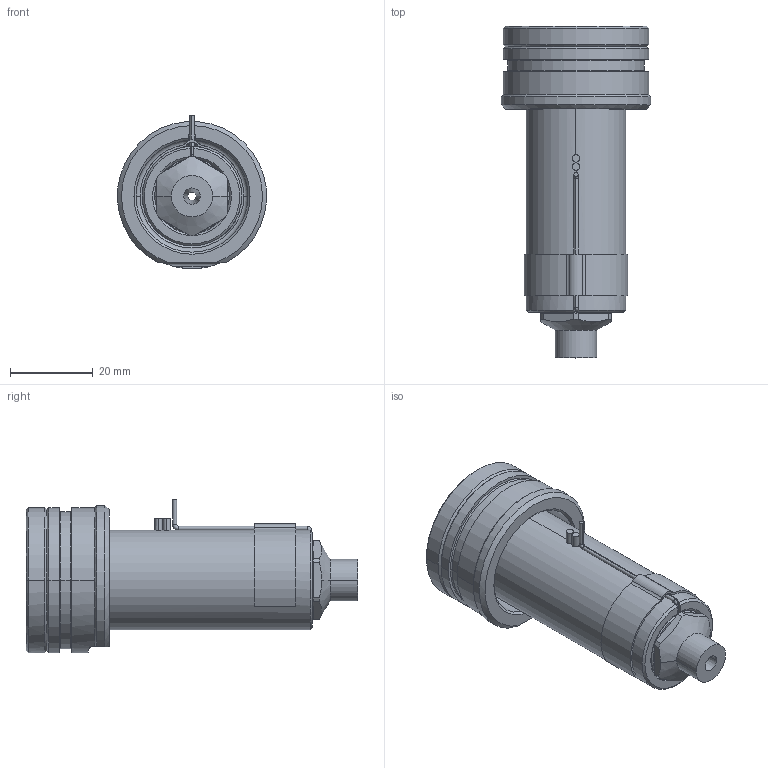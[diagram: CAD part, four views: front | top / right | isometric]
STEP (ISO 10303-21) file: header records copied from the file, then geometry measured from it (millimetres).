
FILE_DESCRIPTION((''),'2;1');
FILE_NAME('EO06_SG_SG_060_SW','2024-02-19T12:14:58',('sundharh'),(''),'CREO PARAMETRIC BY PTC INC, 2023154','CREO PARAMETRIC BY PTC INC, 2023154','');
FILE_SCHEMA(('CONFIG_CONTROL_DESIGN'));
Length unit declared in the file: millimetre
Products named in the file (1): EO06_SG_SG_060_SW
Bounding box: 35.93 x 80 x 37 mm (x, y, z)
Volume: 38894.9 mm3; surface area: 12528 mm2
Topology: 2 solids, 2 shells, 169 faces, 429 edges, 260 vertices
Faces by surface type: cylinder 68, plane 41, cone 30, torus 21, bspline 6, sphere 3
Entity records: 5718 total; most frequent: CARTESIAN_POINT 1591, DIRECTION 908, ORIENTED_EDGE 842, EDGE_CURVE 421, AXIS2_PLACEMENT_3D 379, VERTEX_POINT 260, CIRCLE 216, EDGE_LOOP 183
